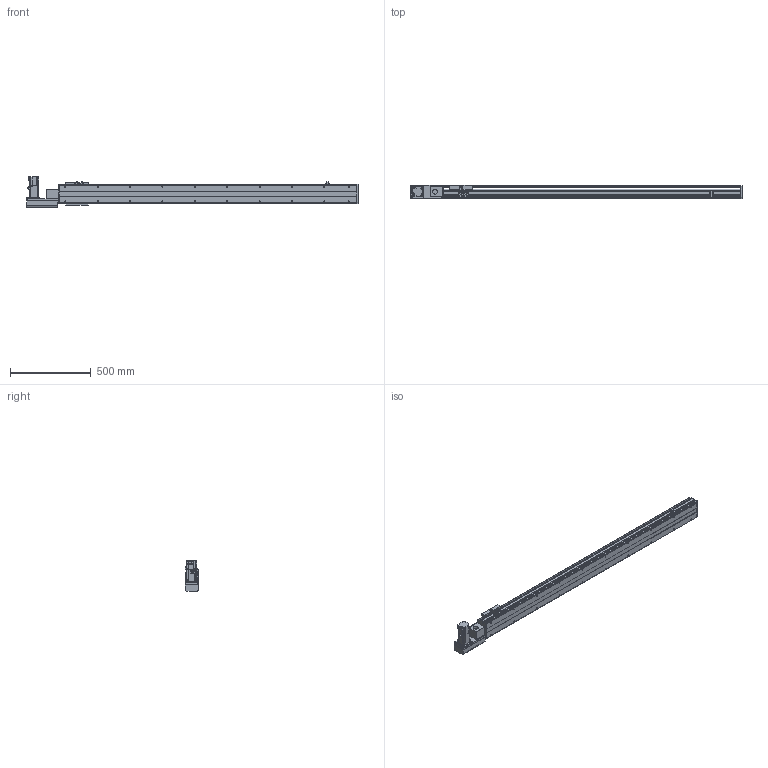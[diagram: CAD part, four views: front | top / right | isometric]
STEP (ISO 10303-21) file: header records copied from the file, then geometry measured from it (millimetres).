
FILE_DESCRIPTION(/* description */ ('STEP AP214'),/* implementation_level */ '2;1');
FILE_NAME(/* name */ 'PBS120-P40-S1550-L-T40-C1-N(0)',/* time_stamp */ '2022-06-05T02:26:31+02:00',/* author */ ('License CC BY-ND 4.0'),/* organization */ ('CADENAS'),/* preprocessor_version */ 'ST-DEVELOPER v18.102',/* originating_system */ 'PARTsolutions',/* authorisation */ ' ');
FILE_SCHEMA (('AUTOMOTIVE_DESIGN {1 0 10303 214 3 1 1}'));
Length unit declared in the file: millimetre
Products named in the file (7): PBS120-P40-S1550-L-T40-C1-N(0); PBS120_sensor; PBS120_plant; PBS120_sliser; T40-p1; PBS120T-L_motors; PBS120-S1550()_body
Assembly tree (8 placements, depth 2):
  PBS120-P40-S1550-L-T40-C1-N(0)
    PBS120_sensor  x3
    PBS120_plant
    PBS120_sliser
    T40-p1
    PBS120T-L_motors
    PBS120-S1550()_body
Bounding box: 2051 x 83 x 189.7 mm (x, y, z)
Volume: 7751519.5 mm3; surface area: 1558727.8 mm2
Topology: 8 solids, 8 shells, 840 faces, 2176 edges, 1399 vertices
Faces by surface type: plane 553, cylinder 233, cone 52, torus 2
Full cylindrical faces by diameter (mm): 2.459 x6, 3.242 x4, 4 x2, 4.134 x4, 4.5 x10, 4.917 x24, 5.5 x11, 6 x2, 6.6 x1, 7 x2, 8.5 x4, 9 x4, 12 x1, 14 x1, 30 x2, 40 x1, 50 x2
Entity records: 21834 total; most frequent: DIRECTION 3788, CARTESIAN_POINT 3713, ORIENTED_EDGE 3526, EDGE_CURVE 1763, AXIS2_PLACEMENT_3D 1280, LINE 1228, VECTOR 1228, VERTEX_POINT 1205
